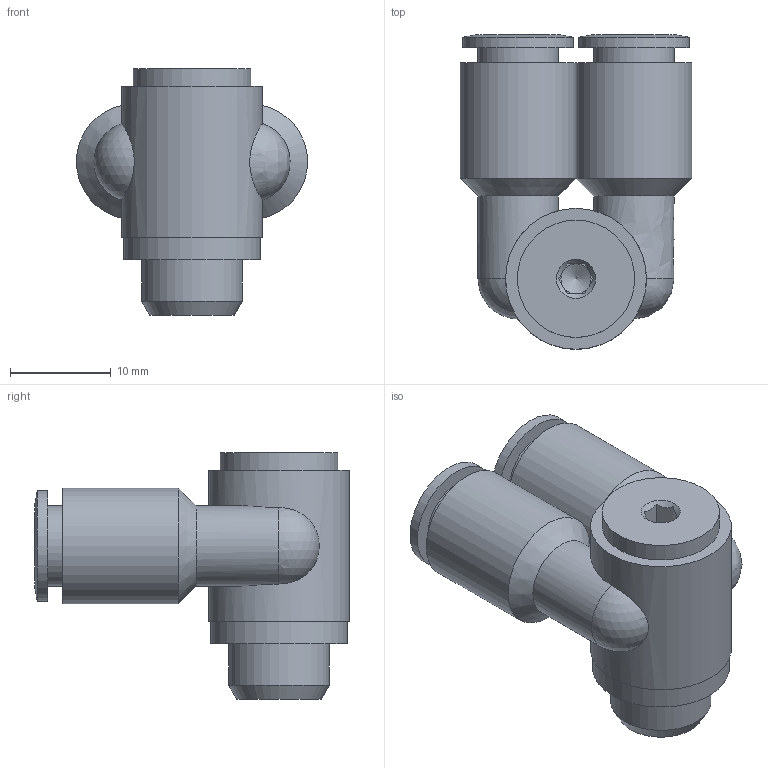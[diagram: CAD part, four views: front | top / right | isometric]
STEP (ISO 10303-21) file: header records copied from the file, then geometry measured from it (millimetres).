
FILE_DESCRIPTION((''),'2;1');
FILE_NAME('C:\Documents and Settings\rivolro1\Documenti\copia di Raccordi\PLASTICA\T15BXXXX\T15B0618.stp','2007-10-31T08:02:50',('Rivolro1'),(''),'Autodesk Inventor 2008','Autodesk Inventor 2008','');
FILE_SCHEMA(('AUTOMOTIVE_DESIGN { 1 0 10303 214 1 1 1 1 }'));
Length unit declared in the file: millimetre
Products named in the file (1): T15B0618
Bounding box: 23 x 31.3 x 24.5 mm (x, y, z)
Volume: 5582.6 mm3; surface area: 3866.5 mm2
Topology: 1 solids, 1 shells, 57 faces, 116 edges, 72 vertices
Faces by surface type: bspline 22, plane 20, cylinder 11, cone 3, sphere 1
Full cylindrical faces by diameter (mm): 4.2 x1, 8 x2, 10 x1, 11 x1, 11.5 x1, 11.667 x1, 13.6 x1, 14 x1
Entity records: 1873 total; most frequent: CARTESIAN_POINT 833, DIRECTION 184, ORIENTED_EDGE 170, EDGE_LOOP 92, EDGE_CURVE 85, AXIS2_PLACEMENT_3D 81, VERTEX_POINT 63, FACE_OUTER_BOUND 57
